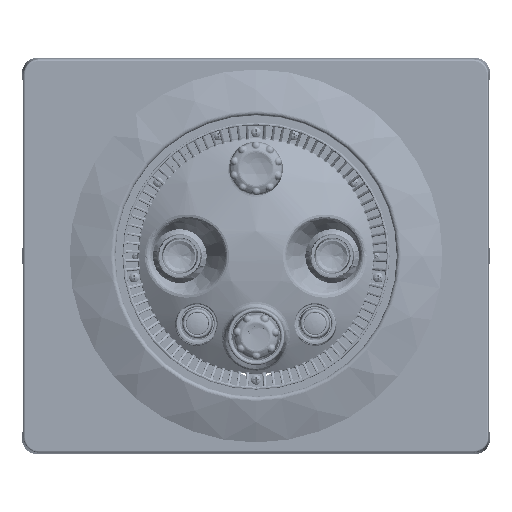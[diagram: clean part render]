
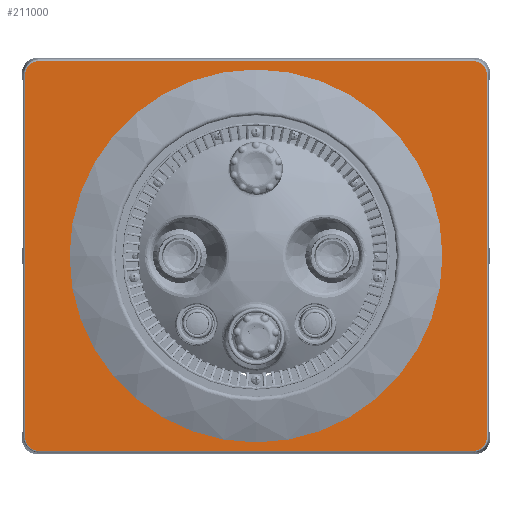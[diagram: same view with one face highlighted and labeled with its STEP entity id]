
A CAD part, top view. The second image highlights one B-rep face of the part: STEP entity #211000.
In plain terms, the highlighted planar face has unit normal (0, 0, 1).
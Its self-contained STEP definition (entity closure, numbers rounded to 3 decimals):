
#25526=LINE('',#512353,#36099);
#25527=LINE('',#512396,#36100);
#25528=LINE('',#512439,#36101);
#25529=LINE('',#512484,#36102);
#36099=VECTOR('',#274116,10.);
#36100=VECTOR('',#274127,10.);
#36101=VECTOR('',#274138,10.);
#36102=VECTOR('',#274149,10.);
#42966=PLANE('',#228587);
#45079=FACE_BOUND('',#79340,.T.);
#53213=CIRCLE('',#228588,208.);
#53214=CIRCLE('',#228589,208.);
#65219=FACE_OUTER_BOUND('',#79339,.T.);
#79339=EDGE_LOOP('',(#198267,#198268,#198269,#198270,#198271,#198272,#198273,
#198274));
#79340=EDGE_LOOP('',(#198275,#198276));
#90141=ELLIPSE('',#228569,15.114,15.);
#90143=ELLIPSE('',#228574,15.114,15.);
#90145=ELLIPSE('',#228579,15.114,15.);
#90148=ELLIPSE('',#228584,15.114,15.);
#109450=VERTEX_POINT('',#512349);
#109451=VERTEX_POINT('',#512351);
#109452=VERTEX_POINT('',#512389);
#109453=VERTEX_POINT('',#512394);
#109454=VERTEX_POINT('',#512432);
#109455=VERTEX_POINT('',#512437);
#109457=VERTEX_POINT('',#512476);
#109459=VERTEX_POINT('',#512482);
#109460=VERTEX_POINT('',#512526);
#109461=VERTEX_POINT('',#512527);
#139054=EDGE_CURVE('',#109451,#109450,#25526,.T.);
#139056=EDGE_CURVE('',#109452,#109451,#90141,.T.);
#139059=EDGE_CURVE('',#109453,#109452,#25527,.T.);
#139061=EDGE_CURVE('',#109454,#109453,#90143,.T.);
#139064=EDGE_CURVE('',#109455,#109454,#25528,.T.);
#139066=EDGE_CURVE('',#109457,#109455,#90145,.T.);
#139069=EDGE_CURVE('',#109459,#109457,#25529,.T.);
#139072=EDGE_CURVE('',#109450,#109459,#90148,.T.);
#139073=EDGE_CURVE('',#109460,#109461,#53213,.T.);
#139074=EDGE_CURVE('',#109461,#109460,#53214,.T.);
#198267=ORIENTED_EDGE('',*,*,#139054,.F.);
#198268=ORIENTED_EDGE('',*,*,#139056,.F.);
#198269=ORIENTED_EDGE('',*,*,#139059,.F.);
#198270=ORIENTED_EDGE('',*,*,#139061,.F.);
#198271=ORIENTED_EDGE('',*,*,#139064,.F.);
#198272=ORIENTED_EDGE('',*,*,#139066,.F.);
#198273=ORIENTED_EDGE('',*,*,#139069,.F.);
#198274=ORIENTED_EDGE('',*,*,#139072,.F.);
#198275=ORIENTED_EDGE('',*,*,#139073,.T.);
#198276=ORIENTED_EDGE('',*,*,#139074,.T.);
#211000=ADVANCED_FACE('',(#65219,#45079),#42966,.T.);
#228569=AXIS2_PLACEMENT_3D('',#512391,#274119,#274120);
#228574=AXIS2_PLACEMENT_3D('',#512434,#274130,#274131);
#228579=AXIS2_PLACEMENT_3D('',#512478,#274141,#274142);
#228584=AXIS2_PLACEMENT_3D('',#512522,#274153,#274154);
#228587=AXIS2_PLACEMENT_3D('',#512525,#274159,#274160);
#228588=AXIS2_PLACEMENT_3D('',#512528,#274161,#274162);
#228589=AXIS2_PLACEMENT_3D('',#512529,#274163,#274164);
#274116=DIRECTION('',(0.,1.,0.));
#274119=DIRECTION('center_axis',(0.,0.,
-1.));
#274120=DIRECTION('ref_axis',(-0.707,-0.707,0.));
#274127=DIRECTION('',(-1.,0.,0.));
#274130=DIRECTION('center_axis',(0.,0.,
-1.));
#274131=DIRECTION('ref_axis',(0.707,-0.707,0.));
#274138=DIRECTION('',(0.,-1.,0.));
#274141=DIRECTION('center_axis',(0.,0.,
-1.));
#274142=DIRECTION('ref_axis',(0.707,0.707,0.));
#274149=DIRECTION('',(1.,0.,0.));
#274153=DIRECTION('center_axis',(0.,0.,
-1.));
#274154=DIRECTION('ref_axis',(-0.707,0.707,0.));
#274159=DIRECTION('center_axis',(0.,0.,
1.));
#274160=DIRECTION('ref_axis',(1.,0.,0.));
#274161=DIRECTION('center_axis',(0.,0.,
-1.));
#274162=DIRECTION('ref_axis',(1.,0.,0.));
#274163=DIRECTION('center_axis',(0.,0.,
-1.));
#274164=DIRECTION('ref_axis',(1.,0.,0.));
#512349=CARTESIAN_POINT('',(-253.804,211.192,175.655));
#512351=CARTESIAN_POINT('',(-253.804,-193.582,175.655));
#512353=CARTESIAN_POINT('',(-253.804,119.305,175.655));
#512389=CARTESIAN_POINT('',(-238.861,-208.525,175.655));
#512391=CARTESIAN_POINT('Origin',(-238.747,-193.468,175.655));
#512394=CARTESIAN_POINT('',(245.913,-208.525,175.655));
#512396=CARTESIAN_POINT('',(-126.974,-208.525,175.655));
#512432=CARTESIAN_POINT('',(260.856,-193.582,175.655));
#512434=CARTESIAN_POINT('Origin',(245.799,-193.468,175.655));
#512437=CARTESIAN_POINT('',(260.856,211.192,175.655));
#512439=CARTESIAN_POINT('',(260.856,119.305,175.655));
#512476=CARTESIAN_POINT('',(245.913,226.135,175.655));
#512478=CARTESIAN_POINT('Origin',(245.799,211.078,175.655));
#512482=CARTESIAN_POINT('',(-238.861,226.135,175.655));
#512484=CARTESIAN_POINT('',(-126.974,226.135,175.655));
#512522=CARTESIAN_POINT('Origin',(-238.747,211.078,175.655));
#512525=CARTESIAN_POINT('Origin',(3.526,8.805,175.655));
#512526=CARTESIAN_POINT('',(211.526,8.805,175.655));
#512527=CARTESIAN_POINT('',(-204.474,8.805,175.655));
#512528=CARTESIAN_POINT('Origin',(3.526,8.805,175.655));
#512529=CARTESIAN_POINT('Origin',(3.526,8.805,175.655));
